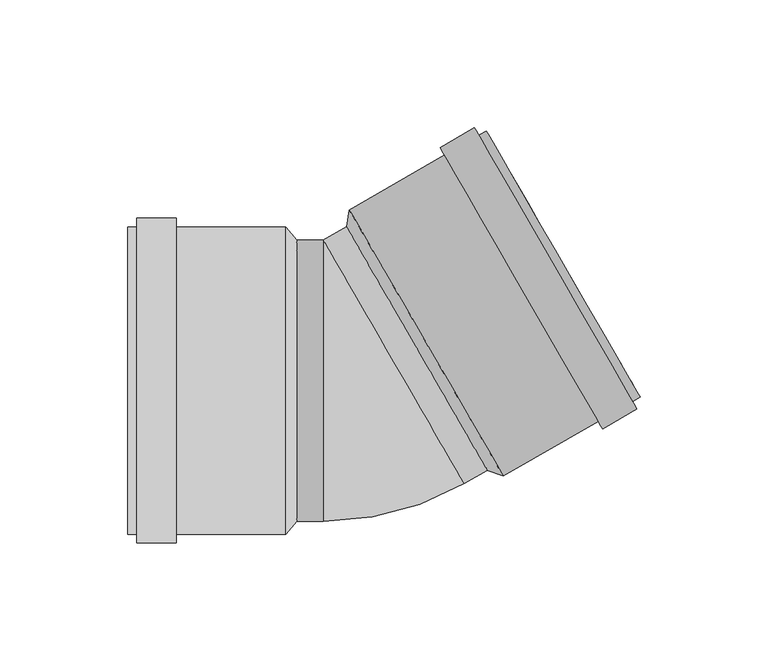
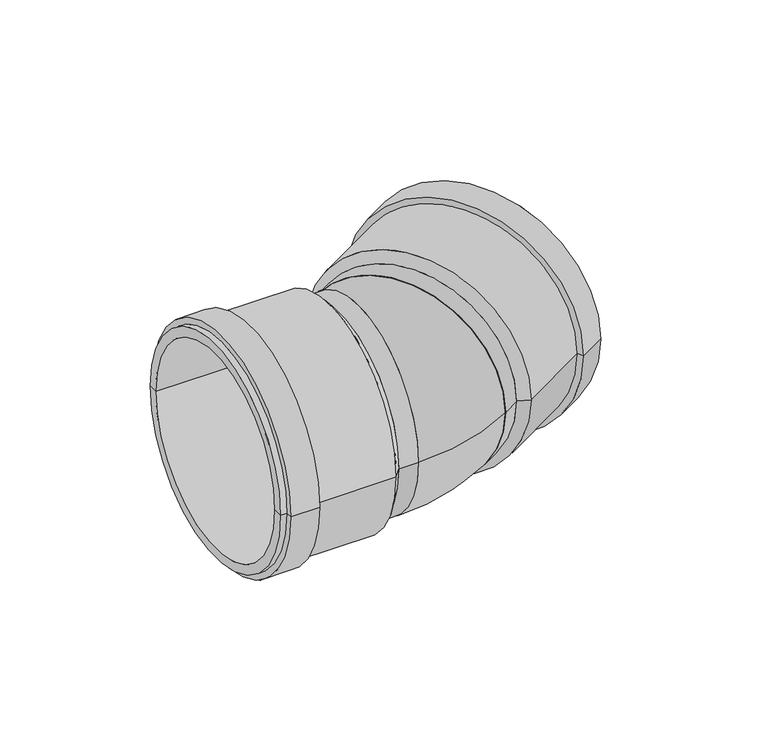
"""IFC4 building model written with IfcOpenShell, lengths in millimetres: pipe fitting geometry, pf_KGBD-2M : pf_KGBD-2M."""

from ifc_helpers import new_model, si_unit, point, frame, origin, origin_2d, place, context, project, spatial, polyline, circle_curve, ellipse_curve, trimmed, segment, composite_curve, outline, extrude, source, transform, mapped, element, save
from ifc_brep_helpers import plane_surface, cylinder_surface, revolved_surface, advanced_brep


def pipe_fitting_d5e943a8(model_context):
    return source(origin(), model_context, "Body", "SolidModel", [
        advanced_brep(
        [(49.3238402, -35.0313972, 0.0), (-5.6761598, 60.2313972, 0.0), (-4.5888531, 66.7481268, 0.0), (55.5111469, -37.3481268, 0.0), (21.8238402, 12.6, 0.0), (109.0315168, -6.4481268, 0.0), (48.9315168, 97.6481268, 0.0), (51.4815168, 93.2313972, 0.0), (106.4815168, -2.0313972, 0.0), (106.0870305, -8.1481268, 0.0), (45.9870305, 95.9481268, 0.0), (107.7870305, -11.0926131, 0.0), (44.2870305, 98.8926131, 0.0), (94.3636367, -18.8426131, 0.0), (30.8636367, 91.1426131, 0.0), (92.6636367, -15.8981268, 0.0), (32.5636367, 88.1981268, 0.0), (52.9611469, -32.9313972, 0.0), (-2.0388531, 62.3313972, 0.0), (25.4611469, 14.7, 0.0)],
        [
            (0, 1, circle_curve(frame((21.8238402, 12.6, 0.0), z_axis=(0.8660254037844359, 0.5000000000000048, 0.0), x_axis=(-0.5000000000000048, 0.8660254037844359, 0.0)), 55.0)),
            (1, 2),
            (2, 3, circle_curve(frame((25.4611469, 14.7, 0.0), z_axis=(-0.8660254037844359, -0.5000000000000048, 0.0), x_axis=(-0.5000000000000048, 0.8660254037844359, 0.0)), 60.1)),
            (3, 0),
            (1, 0, circle_curve(frame((21.8238402, 12.6, 0.0), z_axis=(0.8660254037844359, 0.5000000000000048, 0.0), x_axis=(-0.5000000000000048, 0.8660254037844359, 0.0)), 55.0)),
            (3, 2, circle_curve(frame((25.4611469, 14.7, 0.0), z_axis=(-0.8660254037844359, -0.5000000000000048, 0.0), x_axis=(-0.5000000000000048, 0.8660254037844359, 0.0)), 60.1)),
            (4, 1),
            (0, 4),
            (5, 6, circle_curve(frame((78.9815168, 45.6, 0.0), z_axis=(0.8660254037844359, 0.5000000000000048, 0.0), x_axis=(-0.5000000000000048, 0.8660254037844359, 0.0)), 60.1)),
            (6, 7),
            (7, 8, circle_curve(frame((78.9815168, 45.6, 0.0), z_axis=(-0.8660254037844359, -0.5000000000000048, 0.0), x_axis=(-0.5000000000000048, 0.8660254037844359, 0.0)), 55.0)),
            (8, 5),
            (6, 5, circle_curve(frame((78.9815168, 45.6, 0.0), z_axis=(0.8660254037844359, 0.5000000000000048, 0.0), x_axis=(-0.5000000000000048, 0.8660254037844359, 0.0)), 60.1)),
            (8, 7, circle_curve(frame((78.9815168, 45.6, 0.0), z_axis=(-0.8660254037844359, -0.5000000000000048, 0.0), x_axis=(-0.5000000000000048, 0.8660254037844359, 0.0)), 55.0)),
            (9, 10, circle_curve(frame((76.0370305, 43.9, 0.0), z_axis=(0.8660254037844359, 0.5000000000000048, 0.0), x_axis=(-0.5000000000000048, 0.8660254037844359, 0.0)), 60.1)),
            (10, 6),
            (5, 9),
            (10, 9, circle_curve(frame((76.0370305, 43.9, 0.0), z_axis=(0.8660254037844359, 0.5000000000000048, 0.0), x_axis=(-0.5000000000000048, 0.8660254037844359, 0.0)), 60.1)),
            (11, 12, circle_curve(frame((76.0370305, 43.9, 0.0), z_axis=(0.8660254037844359, 0.5000000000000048, 0.0), x_axis=(-0.5000000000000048, 0.8660254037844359, 0.0)), 63.5)),
            (12, 10),
            (9, 11),
            (12, 11, circle_curve(frame((76.0370305, 43.9, 0.0), z_axis=(0.8660254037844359, 0.5000000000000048, 0.0), x_axis=(-0.5000000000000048, 0.8660254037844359, 0.0)), 63.5)),
            (13, 14, circle_curve(frame((62.6136367, 36.15, 0.0), z_axis=(0.8660254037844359, 0.5000000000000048, 0.0), x_axis=(-0.5000000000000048, 0.8660254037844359, 0.0)), 63.5)),
            (14, 12),
            (11, 13),
            (14, 13, circle_curve(frame((62.6136367, 36.15, 0.0), z_axis=(0.8660254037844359, 0.5000000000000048, 0.0), x_axis=(-0.5000000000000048, 0.8660254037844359, 0.0)), 63.5)),
            (15, 16, circle_curve(frame((62.6136367, 36.15, 0.0), z_axis=(0.8660254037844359, 0.5000000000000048, 0.0), x_axis=(-0.5000000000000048, 0.8660254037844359, 0.0)), 60.1)),
            (16, 14),
            (13, 15),
            (16, 15, circle_curve(frame((62.6136367, 36.15, 0.0), z_axis=(0.8660254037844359, 0.5000000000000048, 0.0), x_axis=(-0.5000000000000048, 0.8660254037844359, 0.0)), 60.1)),
            (2, 16),
            (15, 3),
            (17, 18, circle_curve(frame((25.4611469, 14.7, 0.0), z_axis=(0.8660254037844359, 0.5000000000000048, 0.0), x_axis=(-0.5000000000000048, 0.8660254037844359, 0.0)), 55.0)),
            (18, 19),
            (19, 17),
            (18, 17, circle_curve(frame((25.4611469, 14.7, 0.0), z_axis=(0.8660254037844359, 0.5000000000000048, 0.0), x_axis=(-0.5000000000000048, 0.8660254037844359, 0.0)), 55.0)),
            (7, 18),
            (17, 8),
        ],
        [
            revolved_surface(polyline([(-4.5888531, 66.7481268, 0.0), (-5.6761598, 60.2313972, 0.0)]), (21.8238402, 12.6, 0.0), (-0.8660254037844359, -0.5000000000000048, 0.0)),
            plane_surface(frame((21.8238402, 12.6, 0.0), z_axis=(-0.8660254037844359, -0.5000000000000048, 0.0), x_axis=(-0.5000000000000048, 0.8660254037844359, 0.0))),
            plane_surface(frame((78.9815168, 45.6, 0.0), z_axis=(0.8660254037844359, 0.5000000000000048, 0.0), x_axis=(-0.5000000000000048, 0.8660254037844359, 0.0))),
            cylinder_surface(frame((21.8238402, 12.6, 0.0), z_axis=(-0.8660254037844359, -0.5000000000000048, 0.0), x_axis=(-0.5000000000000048, 0.8660254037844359, 0.0)), 60.1),
            plane_surface(frame((76.0370305, 43.9, 0.0), z_axis=(0.8660254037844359, 0.5000000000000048, 0.0), x_axis=(-0.5000000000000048, 0.8660254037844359, 0.0))),
            cylinder_surface(frame((21.8238402, 12.6, 0.0), z_axis=(-0.8660254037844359, -0.5000000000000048, 0.0), x_axis=(-0.5000000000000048, 0.8660254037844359, 0.0)), 63.5),
            plane_surface(frame((62.6136367, 36.15, 0.0), z_axis=(-0.8660254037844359, -0.5000000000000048, 0.0), x_axis=(-0.5000000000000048, 0.8660254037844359, 0.0))),
            plane_surface(frame((25.4611469, 14.7, 0.0), z_axis=(0.8660254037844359, 0.5000000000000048, 0.0), x_axis=(-0.5000000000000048, 0.8660254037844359, 0.0))),
            revolved_surface(polyline([(-2.038853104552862, 62.331397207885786, 0.0), (51.48151681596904, 93.23139718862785, 0.0)]), (21.8238402, 12.6, 0.0), (-0.8660254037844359, -0.5000000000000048, 0.0)),
        ],
        [
            (0, [[1, 2, 3, 4]]),
            (0, [[5, -4, 6, -2]]),
            (1, [[7, -1, 8]]),
            (1, [[-8, -5, -7]]),
            (2, [[9, 10, 11, 12]]),
            (2, [[13, -12, 14, -10]]),
            (3, [[15, 16, -9, 17]]),
            (3, [[18, -17, -13, -16]]),
            (4, [[19, 20, -15, 21]]),
            (4, [[22, -21, -18, -20]]),
            (5, [[23, 24, -19, 25]]),
            (5, [[26, -25, -22, -24]]),
            (6, [[27, 28, -23, 29]]),
            (6, [[30, -29, -26, -28]]),
            (3, [[-3, 31, -27, 32]]),
            (3, [[-6, -32, -30, -31]]),
            (7, [[33, 34, 35]]),
            (7, [[36, -35, -34]]),
            (8, [[-11, 37, -33, 38]]),
            (8, [[-14, -38, -36, -37]]),
        ],
    ),
        advanced_brep(
        [(-25.2, 55.0, 0.0), (-25.2, -55.0, 0.0), (-29.4, -60.1, 0.0), (-29.4, 60.1, 0.0), (-25.2, 0.0, 0.0), (-91.2, 60.1, 0.0), (-91.2, -60.1, 0.0), (-91.2, -55.0, 0.0), (-91.2, 55.0, 0.0), (-87.8, 60.1, 0.0), (-87.8, -60.1, 0.0), (-87.8, 63.5, 0.0), (-87.8, -63.5, 0.0), (-72.3, 63.5, 0.0), (-72.3, -63.5, 0.0), (-72.3, 60.1, 0.0), (-72.3, -60.1, 0.0), (-29.4, 55.0, 0.0), (-29.4, -55.0, 0.0), (-29.4, 0.0, 0.0)],
        [
            (0, 1, circle_curve(frame((-25.2, 0.0, 0.0), z_axis=(-1.0, 0.0, 0.0), x_axis=(0.0, -1.0, 0.0)), 55.0)),
            (1, 2),
            (2, 3, circle_curve(frame((-29.4, 0.0, 0.0), z_axis=(1.0, 0.0, 0.0), x_axis=(0.0, -1.0, 0.0)), 60.1)),
            (3, 0),
            (1, 0, circle_curve(frame((-25.2, 0.0, 0.0), z_axis=(-1.0, 0.0, 0.0), x_axis=(0.0, -1.0, 0.0)), 55.0)),
            (3, 2, circle_curve(frame((-29.4, 0.0, 0.0), z_axis=(1.0, 0.0, 0.0), x_axis=(0.0, -1.0, 0.0)), 60.1)),
            (4, 1),
            (0, 4),
            (5, 6, circle_curve(frame((-91.2, 0.0, 0.0), z_axis=(-1.0, 0.0, 0.0), x_axis=(0.0, -1.0, 0.0)), 60.1)),
            (6, 7),
            (7, 8, circle_curve(frame((-91.2, 0.0, 0.0), z_axis=(1.0, 0.0, 0.0), x_axis=(0.0, -1.0, 0.0)), 55.0)),
            (8, 5),
            (6, 5, circle_curve(frame((-91.2, 0.0, 0.0), z_axis=(-1.0, 0.0, 0.0), x_axis=(0.0, -1.0, 0.0)), 60.1)),
            (8, 7, circle_curve(frame((-91.2, 0.0, 0.0), z_axis=(1.0, 0.0, 0.0), x_axis=(0.0, -1.0, 0.0)), 55.0)),
            (9, 10, circle_curve(frame((-87.8, 0.0, 0.0), z_axis=(-1.0, 0.0, 0.0), x_axis=(0.0, -1.0, 0.0)), 60.1)),
            (10, 6),
            (5, 9),
            (10, 9, circle_curve(frame((-87.8, 0.0, 0.0), z_axis=(-1.0, 0.0, 0.0), x_axis=(0.0, -1.0, 0.0)), 60.1)),
            (11, 12, circle_curve(frame((-87.8, 0.0, 0.0), z_axis=(-1.0, 0.0, 0.0), x_axis=(0.0, -1.0, 0.0)), 63.5)),
            (12, 10),
            (9, 11),
            (12, 11, circle_curve(frame((-87.8, 0.0, 0.0), z_axis=(-1.0, 0.0, 0.0), x_axis=(0.0, -1.0, 0.0)), 63.5)),
            (13, 14, circle_curve(frame((-72.3, 0.0, 0.0), z_axis=(-1.0, 0.0, 0.0), x_axis=(0.0, -1.0, 0.0)), 63.5)),
            (14, 12),
            (11, 13),
            (14, 13, circle_curve(frame((-72.3, 0.0, 0.0), z_axis=(-1.0, 0.0, 0.0), x_axis=(0.0, -1.0, 0.0)), 63.5)),
            (15, 16, circle_curve(frame((-72.3, 0.0, 0.0), z_axis=(-1.0, 0.0, 0.0), x_axis=(0.0, -1.0, 0.0)), 60.1)),
            (16, 14),
            (13, 15),
            (16, 15, circle_curve(frame((-72.3, 0.0, 0.0), z_axis=(-1.0, 0.0, 0.0), x_axis=(0.0, -1.0, 0.0)), 60.1)),
            (2, 16),
            (15, 3),
            (17, 18, circle_curve(frame((-29.4, 0.0, 0.0), z_axis=(-1.0, 0.0, 0.0), x_axis=(0.0, -1.0, 0.0)), 55.0)),
            (18, 19),
            (19, 17),
            (18, 17, circle_curve(frame((-29.4, 0.0, 0.0), z_axis=(-1.0, 0.0, 0.0), x_axis=(0.0, -1.0, 0.0)), 55.0)),
            (7, 18),
            (17, 8),
        ],
        [
            revolved_surface(polyline([(-29.4, -60.1, 0.0), (-25.2, -55.0, 0.0)]), (-25.2, 0.0, 0.0), (1.0, 0.0, 0.0)),
            plane_surface(frame((-25.2, 0.0, 0.0), z_axis=(1.0, 0.0, 0.0), x_axis=(0.0, -1.0, 0.0))),
            plane_surface(frame((-91.2, 0.0, 0.0), z_axis=(-1.0, 0.0, 0.0), x_axis=(0.0, -1.0, 0.0))),
            cylinder_surface(frame((-25.2, 0.0, 0.0), z_axis=(1.0, 0.0, 0.0), x_axis=(0.0, -1.0, 0.0)), 60.1),
            plane_surface(frame((-87.8, 0.0, 0.0), z_axis=(-1.0, 0.0, 0.0), x_axis=(0.0, -1.0, 0.0))),
            cylinder_surface(frame((-25.2, 0.0, 0.0), z_axis=(1.0, 0.0, 0.0), x_axis=(0.0, -1.0, 0.0)), 63.5),
            plane_surface(frame((-72.3, 0.0, 0.0), z_axis=(1.0, 0.0, 0.0), x_axis=(0.0, -1.0, 0.0))),
            plane_surface(frame((-29.4, 0.0, 0.0), z_axis=(-1.0, 0.0, 0.0), x_axis=(0.0, -1.0, 0.0))),
            revolved_surface(polyline([(-29.4, -55.0, 0.0), (-91.2, -55.0, 0.0)]), (-25.2, 0.0, 0.0), (1.0, 0.0, 0.0)),
        ],
        [
            (0, [[1, 2, 3, 4]]),
            (0, [[5, -4, 6, -2]]),
            (1, [[7, -1, 8]]),
            (1, [[-8, -5, -7]]),
            (2, [[9, 10, 11, 12]]),
            (2, [[13, -12, 14, -10]]),
            (3, [[15, 16, -9, 17]]),
            (3, [[18, -17, -13, -16]]),
            (4, [[19, 20, -15, 21]]),
            (4, [[22, -21, -18, -20]]),
            (5, [[23, 24, -19, 25]]),
            (5, [[26, -25, -22, -24]]),
            (6, [[27, 28, -23, 29]]),
            (6, [[30, -29, -26, -28]]),
            (3, [[-3, 31, -27, 32]]),
            (3, [[-6, -32, -30, -31]]),
            (7, [[33, 34, 35]]),
            (7, [[36, -35, -34]]),
            (8, [[-11, 37, -33, 38]]),
            (8, [[-14, -38, -36, -37]]),
        ],
    ),
        extrude(outline(composite_curve([segment(trimmed(circle_curve(origin_2d(), 55.0), [point((0.0, -55.0))], [point((0.0, 55.0))], False, "CARTESIAN"), True, "CONTINUOUS"), segment(trimmed(circle_curve(origin_2d(), 55.0), [point((0.0, 55.0))], [point((0.0, -55.0))], False, "CARTESIAN"), True, "CONTINUOUS")], self_intersect=False)), frame((12.7627944, 7.3686028, 0.0), z_axis=(0.8660254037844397, 0.49999999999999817, 0.0), x_axis=(0.0, 0.0, 1.0)), (0.0, 0.0, 1.0), 10.4627944),
        extrude(outline(composite_curve([segment(trimmed(circle_curve(origin_2d(), 55.0), [point((-55.0, 0.0))], [point((55.0, 0.0))], False, "CARTESIAN"), True, "CONTINUOUS"), segment(trimmed(circle_curve(origin_2d(), 55.0), [point((55.0, 0.0))], [point((-55.0, 0.0))], False, "CARTESIAN"), True, "CONTINUOUS")], self_intersect=False)), frame((-25.2, 0.0, 0.0), z_axis=(1.0, 0.0, 0.0), x_axis=(0.0, 1.0, 0.0)), (0.0, 0.0, 1.0), 10.4627944),
        advanced_brep(
        [(-14.7372056, -55.0, 0.0), (-14.7372056, 55.0, 0.0), (40.2627944, -40.2627944, 0.0)],
        [
            (0, 1, circle_curve(frame((-14.7372056, 0.0, 0.0), z_axis=(-1.0, 0.0, 0.0), x_axis=(0.0, 1.0, 0.0)), 55.0)),
            (1, 0, circle_curve(frame((-14.7372056, 0.0, 0.0), z_axis=(-1.0, 0.0, 0.0), x_axis=(0.0, 1.0, 0.0)), 55.0)),
            (2, 1, circle_curve(frame((12.7627944, 7.3686028, 0.0), z_axis=(0.8660254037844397, 0.49999999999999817, 0.0), x_axis=(-0.49999999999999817, 0.8660254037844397, 0.0)), 55.0)),
            (1, 2, circle_curve(frame((12.7627944, 7.3686028, 0.0), z_axis=(0.8660254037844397, 0.49999999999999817, 0.0), x_axis=(-0.49999999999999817, 0.8660254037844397, 0.0)), 55.0)),
            (2, 0, circle_curve(frame((-14.7372056, 55.0, 0.0), z_axis=(0.0, 0.0, -1.0), x_axis=(0.0, -1.0, 0.0)), 110.0)),
        ],
        [
            plane_surface(frame((-14.7372056, 55.0, -14.8), z_axis=(-1.0, 0.0, 0.0), x_axis=(0.0, -1.0, 0.0))),
            plane_surface(frame((-14.7372056, 55.0, -14.8), z_axis=(0.8660254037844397, 0.4999999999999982, 0.0), x_axis=(0.4999999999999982, -0.8660254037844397, 0.0))),
            revolved_surface(trimmed(ellipse_curve(frame((-14.7372056, 0.0, 0.0), z_axis=(1.0, 0.0, 0.0), x_axis=(0.0, 1.0, 0.0)), 55.0, 55.0), [point((-14.7372056, -55.0, 0.0))], [point((-14.7372056, 55.0, 0.0))], True, "CARTESIAN"), (-14.7372056, 55.0, -14.8), (0.0, 0.0, -1.0)),
            revolved_surface(trimmed(ellipse_curve(frame((-14.7372056, 0.0, 0.0), z_axis=(1.0, 0.0, 0.0), x_axis=(0.0, 1.0, 0.0)), 55.0, 55.0), [point((-14.7372056, 55.0, 0.0))], [point((-14.7372056, -55.0, 0.0))], True, "CARTESIAN"), (-14.7372056, 55.0, -14.8), (0.0, 0.0, -1.0)),
        ],
        [
            (0, [[1, 2]]),
            (1, [[3, 4]]),
            (2, [[5, -2, -3]]),
            (3, [[-1, -5, -4]]),
        ],
    ),
    ])


if __name__ == "__main__":
    model = new_model("IFC4")
    model_context = context("Model", 3, world=origin())
    ifc_project = project(units=[si_unit("LENGTHUNIT", "METRE", prefix="MILLI")], contexts=[model_context])
    site = spatial("IfcSite", under=ifc_project)
    building = spatial("IfcBuilding", under=site)
    placement = place(None, origin())
    pipe_fitting_shape = pipe_fitting_d5e943a8(model_context)
    element("IfcPipeFitting", 1, ObjectType="pf_KGBD-2M : pf_KGBD-2M", at=placement, inside=building, context=model_context, shape_type="MappedRepresentation", body=[
        mapped(pipe_fitting_shape, transform((0.0, 0.0, 0.0), x_axis=(1.0, 0.0, 0.0), y_axis=(0.0, 1.0, 0.0), z_axis=(0.0, 0.0, 1.0))),
    ])
    save(model, "model.ifc")
